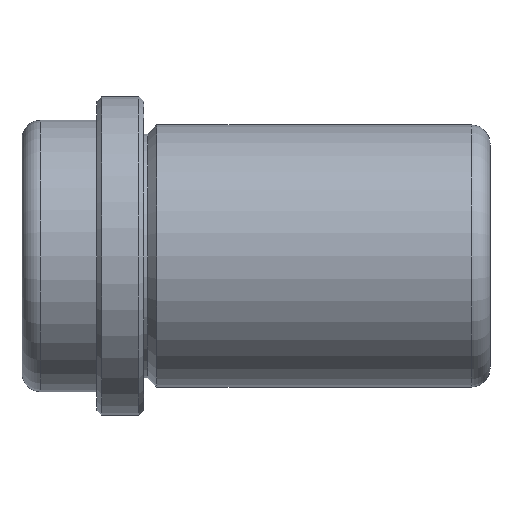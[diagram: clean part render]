
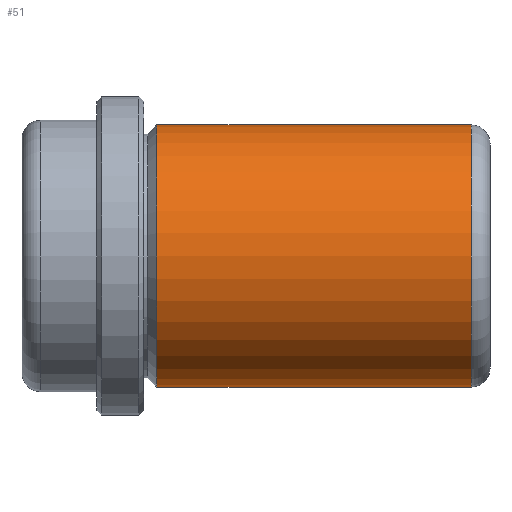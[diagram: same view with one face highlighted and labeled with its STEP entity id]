
A CAD part, front view. The second image highlights one B-rep face of the part: STEP entity #51.
In plain terms, the highlighted cylindrical face has radius 14 mm (diameter 28 mm), a full revolution.
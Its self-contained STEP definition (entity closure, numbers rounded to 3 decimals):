
#51 = ADVANCED_FACE( '', ( #114, #115, #116 ), #117, .T. );
#114 = FACE_OUTER_BOUND( '', #199, .T. );
#115 = FACE_BOUND( '', #200, .T. );
#116 = FACE_OUTER_BOUND( '', #201, .T. );
#117 = CYLINDRICAL_SURFACE( '', #202, 14. );
#199 = EDGE_LOOP( '', ( #286 ) );
#200 = EDGE_LOOP( '', ( #287 ) );
#201 = EDGE_LOOP( '', ( #288 ) );
#202 = AXIS2_PLACEMENT_3D( '', #289, #290, #291 );
#286 = ORIENTED_EDGE( '', *, *, #389, .T. );
#287 = ORIENTED_EDGE( '', *, *, #379, .T. );
#288 = ORIENTED_EDGE( '', *, *, #390, .F. );
#289 = CARTESIAN_POINT( '', ( 37., 0., 0. ) );
#290 = DIRECTION( '', ( -1., 0., 0. ) );
#291 = DIRECTION( '', ( 0., 0., -1. ) );
#379 = EDGE_CURVE( '', #419, #419, #420, .T. );
#389 = EDGE_CURVE( '', #435, #435, #436, .T. );
#390 = EDGE_CURVE( '', #437, #437, #438, .T. );
#419 = VERTEX_POINT( '', #535 );
#420 = B_SPLINE_CURVE_WITH_KNOTS( '', 3, ( #536, #537, #538, #539, #540, #541, #542, #543, #544, #545, #546, #547, #548, #549, #550, #551, #552, #553, #554, #555, #556, #557, #558, #559, #560, #561, #562, #563, #564, #565, #566, #567, #568, #569, #570, #571, #572, #573, #574, #575, #576, #577, #578, #579, #580, #581, #582, #583, #584, #585, #586, #587, #588, #589, #590, #591, #592, #593, #594, #595 ), .UNSPECIFIED., .T., .F., ( 2, 2, 2, 2, 2, 2, 2, 2, 2, 2, 2, 2, 2, 2, 2, 2, 2, 2, 2, 2, 2, 2, 2, 2, 2, 2, 2, 2, 2, 2, 2, 2 ), ( 0., 0., 0., 0.001, 0.001, 0.002, 0.003, 0.003, 0.004, 0.004, 0.005, 0.005, 0.006, 0.006, 0.007, 0.007, 0.008, 0.009, 0.009, 0.01, 0.01, 0.011, 0.011, 0.012, 0.012, 0.013, 0.013, 0.014, 0.015, 0.015, 0.016, 0.016 ), .UNSPECIFIED. );
#435 = VERTEX_POINT( '', #610 );
#436 = CIRCLE( '', #611, 14. );
#437 = VERTEX_POINT( '', #612 );
#438 = CIRCLE( '', #613, 14. );
#535 = CARTESIAN_POINT( '', ( 8., 13.775, -2.5 ) );
#536 = CARTESIAN_POINT( '', ( 7.834, 13.775, -2.5 ) );
#537 = CARTESIAN_POINT( '', ( 8.166, 13.775, -2.5 ) );
#538 = CARTESIAN_POINT( '', ( 8.328, 13.778, -2.484 ) );
#539 = CARTESIAN_POINT( '', ( 8.648, 13.789, -2.42 ) );
#540 = CARTESIAN_POINT( '', ( 8.807, 13.798, -2.372 ) );
#541 = CARTESIAN_POINT( '', ( 9.11, 13.819, -2.246 ) );
#542 = CARTESIAN_POINT( '', ( 9.253, 13.831, -2.169 ) );
#543 = CARTESIAN_POINT( '', ( 9.525, 13.858, -1.988 ) );
#544 = CARTESIAN_POINT( '', ( 9.653, 13.873, -1.883 ) );
#545 = CARTESIAN_POINT( '', ( 9.998, 13.917, -1.537 ) );
#546 = CARTESIAN_POINT( '', ( 10.184, 13.947, -1.259 ) );
#547 = CARTESIAN_POINT( '', ( 10.371, 13.977, -0.808 ) );
#548 = CARTESIAN_POINT( '', ( 10.42, 13.986, -0.65 ) );
#549 = CARTESIAN_POINT( '', ( 10.484, 13.997, -0.327 ) );
#550 = CARTESIAN_POINT( '', ( 10.5, 14., -0.165 ) );
#551 = CARTESIAN_POINT( '', ( 10.5, 14., 0.162 ) );
#552 = CARTESIAN_POINT( '', ( 10.484, 13.997, 0.328 ) );
#553 = CARTESIAN_POINT( '', ( 10.42, 13.986, 0.649 ) );
#554 = CARTESIAN_POINT( '', ( 10.373, 13.978, 0.805 ) );
#555 = CARTESIAN_POINT( '', ( 10.247, 13.957, 1.108 ) );
#556 = CARTESIAN_POINT( '', ( 10.169, 13.944, 1.254 ) );
#557 = CARTESIAN_POINT( '', ( 9.988, 13.917, 1.524 ) );
#558 = CARTESIAN_POINT( '', ( 9.885, 13.903, 1.651 ) );
#559 = CARTESIAN_POINT( '', ( 9.652, 13.873, 1.884 ) );
#560 = CARTESIAN_POINT( '', ( 9.526, 13.859, 1.987 ) );
#561 = CARTESIAN_POINT( '', ( 9.256, 13.831, 2.168 ) );
#562 = CARTESIAN_POINT( '', ( 9.109, 13.819, 2.246 ) );
#563 = CARTESIAN_POINT( '', ( 8.807, 13.798, 2.372 ) );
#564 = CARTESIAN_POINT( '', ( 8.651, 13.789, 2.419 ) );
#565 = CARTESIAN_POINT( '', ( 8.33, 13.778, 2.483 ) );
#566 = CARTESIAN_POINT( '', ( 8.164, 13.775, 2.5 ) );
#567 = CARTESIAN_POINT( '', ( 7.674, 13.775, 2.5 ) );
#568 = CARTESIAN_POINT( '', ( 7.345, 13.787, 2.434 ) );
#569 = CARTESIAN_POINT( '', ( 6.893, 13.819, 2.248 ) );
#570 = CARTESIAN_POINT( '', ( 6.747, 13.831, 2.17 ) );
#571 = CARTESIAN_POINT( '', ( 6.475, 13.858, 1.988 ) );
#572 = CARTESIAN_POINT( '', ( 6.349, 13.873, 1.885 ) );
#573 = CARTESIAN_POINT( '', ( 6.119, 13.902, 1.654 ) );
#574 = CARTESIAN_POINT( '', ( 6.013, 13.917, 1.526 ) );
#575 = CARTESIAN_POINT( '', ( 5.832, 13.944, 1.255 ) );
#576 = CARTESIAN_POINT( '', ( 5.755, 13.957, 1.112 ) );
#577 = CARTESIAN_POINT( '', ( 5.629, 13.977, 0.809 ) );
#578 = CARTESIAN_POINT( '', ( 5.581, 13.986, 0.65 ) );
#579 = CARTESIAN_POINT( '', ( 5.517, 13.997, 0.331 ) );
#580 = CARTESIAN_POINT( '', ( 5.5, 14., 0.167 ) );
#581 = CARTESIAN_POINT( '', ( 5.5, 14., -0.163 ) );
#582 = CARTESIAN_POINT( '', ( 5.516, 13.997, -0.326 ) );
#583 = CARTESIAN_POINT( '', ( 5.579, 13.986, -0.646 ) );
#584 = CARTESIAN_POINT( '', ( 5.628, 13.978, -0.805 ) );
#585 = CARTESIAN_POINT( '', ( 5.753, 13.957, -1.108 ) );
#586 = CARTESIAN_POINT( '', ( 5.829, 13.945, -1.251 ) );
#587 = CARTESIAN_POINT( '', ( 6.011, 13.918, -1.523 ) );
#588 = CARTESIAN_POINT( '', ( 6.116, 13.903, -1.651 ) );
#589 = CARTESIAN_POINT( '', ( 6.461, 13.859, -1.997 ) );
#590 = CARTESIAN_POINT( '', ( 6.739, 13.829, -2.183 ) );
#591 = CARTESIAN_POINT( '', ( 7.19, 13.798, -2.371 ) );
#592 = CARTESIAN_POINT( '', ( 7.348, 13.789, -2.419 ) );
#593 = CARTESIAN_POINT( '', ( 7.671, 13.778, -2.484 ) );
#594 = CARTESIAN_POINT( '', ( 7.834, 13.775, -2.5 ) );
#595 = CARTESIAN_POINT( '', ( 8.166, 13.775, -2.5 ) );
#610 = CARTESIAN_POINT( '', ( 1.414, 0., -14. ) );
#611 = AXIS2_PLACEMENT_3D( '', #665, #666, #667 );
#612 = CARTESIAN_POINT( '', ( 35., 0., -14. ) );
#613 = AXIS2_PLACEMENT_3D( '', #668, #669, #670 );
#665 = CARTESIAN_POINT( '', ( 1.414, 0., 0. ) );
#666 = DIRECTION( '', ( 1., 0., 0. ) );
#667 = DIRECTION( '', ( 0., 0., -1. ) );
#668 = CARTESIAN_POINT( '', ( 35., 0., 0. ) );
#669 = DIRECTION( '', ( 1., 0., 0. ) );
#670 = DIRECTION( '', ( 0., 0., -1. ) );
